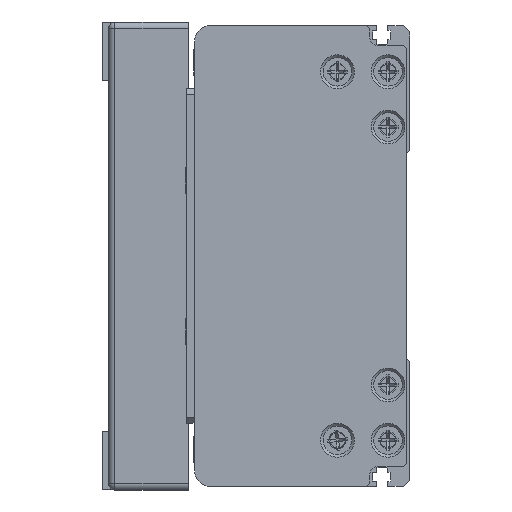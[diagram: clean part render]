
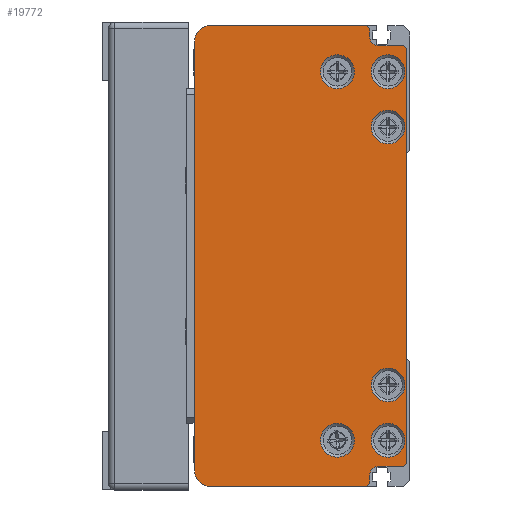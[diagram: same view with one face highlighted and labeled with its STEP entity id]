
A CAD part, left-side view. The second image highlights one B-rep face of the part: STEP entity #19772.
In plain terms, the highlighted planar face has unit normal (-1, 0, 0) as drawn and (0, 0, -1) by its records, which use the part's own axes.
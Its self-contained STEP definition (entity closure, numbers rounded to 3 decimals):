
#934=LINE('',#28562,#2599);
#935=LINE('',#28566,#2600);
#936=LINE('',#28568,#2601);
#937=LINE('',#28570,#2602);
#938=LINE('',#28574,#2603);
#939=LINE('',#28576,#2604);
#940=LINE('',#28578,#2605);
#941=LINE('',#28580,#2606);
#942=LINE('',#28582,#2607);
#943=LINE('',#28586,#2608);
#944=LINE('',#28588,#2609);
#945=LINE('',#28590,#2610);
#2599=VECTOR('',#23187,140.);
#2600=VECTOR('',#23190,51.);
#2601=VECTOR('',#23191,1.414);
#2602=VECTOR('',#23192,2.5);
#2603=VECTOR('',#23195,8.);
#2604=VECTOR('',#23196,1.414);
#2605=VECTOR('',#23197,135.);
#2606=VECTOR('',#23198,1.414);
#2607=VECTOR('',#23199,8.);
#2608=VECTOR('',#23202,2.5);
#2609=VECTOR('',#23203,1.414);
#2610=VECTOR('',#23204,51.);
#4217=PLANE('',#21122);
#4842=FACE_BOUND('',#6656,.T.);
#4843=FACE_BOUND('',#6657,.T.);
#4844=FACE_BOUND('',#6658,.T.);
#4845=FACE_BOUND('',#6659,.T.);
#4846=FACE_BOUND('',#6660,.T.);
#4847=FACE_BOUND('',#6661,.T.);
#5385=FACE_OUTER_BOUND('',#6655,.T.);
#6655=EDGE_LOOP('',(#13875,#13876,#13877,#13878,#13879,#13880,#13881,#13882,
#13883,#13884,#13885,#13886,#13887,#13888,#13889,#13890));
#6656=EDGE_LOOP('',(#13891));
#6657=EDGE_LOOP('',(#13892));
#6658=EDGE_LOOP('',(#13893));
#6659=EDGE_LOOP('',(#13894));
#6660=EDGE_LOOP('',(#13895));
#6661=EDGE_LOOP('',(#13896));
#8155=CIRCLE('',#21123,5.);
#8156=CIRCLE('',#21124,3.);
#8157=CIRCLE('',#21125,3.);
#8158=CIRCLE('',#21126,5.);
#8159=CIRCLE('',#21127,5.5);
#8160=CIRCLE('',#21128,5.5);
#8161=CIRCLE('',#21129,5.5);
#8162=CIRCLE('',#21130,5.5);
#8163=CIRCLE('',#21131,5.5);
#8164=CIRCLE('',#21132,5.5);
#8839=VERTEX_POINT('',#28560);
#8840=VERTEX_POINT('',#28561);
#8841=VERTEX_POINT('',#28563);
#8842=VERTEX_POINT('',#28565);
#8843=VERTEX_POINT('',#28567);
#8844=VERTEX_POINT('',#28569);
#8845=VERTEX_POINT('',#28571);
#8846=VERTEX_POINT('',#28573);
#8847=VERTEX_POINT('',#28575);
#8848=VERTEX_POINT('',#28577);
#8849=VERTEX_POINT('',#28579);
#8850=VERTEX_POINT('',#28581);
#8851=VERTEX_POINT('',#28583);
#8852=VERTEX_POINT('',#28585);
#8853=VERTEX_POINT('',#28587);
#8854=VERTEX_POINT('',#28589);
#8855=VERTEX_POINT('',#28592);
#8856=VERTEX_POINT('',#28594);
#8857=VERTEX_POINT('',#28596);
#8858=VERTEX_POINT('',#28598);
#8859=VERTEX_POINT('',#28600);
#8860=VERTEX_POINT('',#28602);
#10867=EDGE_CURVE('',#8839,#8840,#934,.T.);
#10868=EDGE_CURVE('',#8840,#8841,#8155,.T.);
#10869=EDGE_CURVE('',#8841,#8842,#935,.T.);
#10870=EDGE_CURVE('',#8842,#8843,#936,.T.);
#10871=EDGE_CURVE('',#8843,#8844,#937,.T.);
#10872=EDGE_CURVE('',#8844,#8845,#8156,.T.);
#10873=EDGE_CURVE('',#8845,#8846,#938,.T.);
#10874=EDGE_CURVE('',#8846,#8847,#939,.T.);
#10875=EDGE_CURVE('',#8847,#8848,#940,.T.);
#10876=EDGE_CURVE('',#8848,#8849,#941,.T.);
#10877=EDGE_CURVE('',#8849,#8850,#942,.T.);
#10878=EDGE_CURVE('',#8850,#8851,#8157,.T.);
#10879=EDGE_CURVE('',#8851,#8852,#943,.T.);
#10880=EDGE_CURVE('',#8852,#8853,#944,.T.);
#10881=EDGE_CURVE('',#8853,#8854,#945,.T.);
#10882=EDGE_CURVE('',#8854,#8839,#8158,.T.);
#10883=EDGE_CURVE('',#8855,#8855,#8159,.T.);
#10884=EDGE_CURVE('',#8856,#8856,#8160,.T.);
#10885=EDGE_CURVE('',#8857,#8857,#8161,.T.);
#10886=EDGE_CURVE('',#8858,#8858,#8162,.T.);
#10887=EDGE_CURVE('',#8859,#8859,#8163,.T.);
#10888=EDGE_CURVE('',#8860,#8860,#8164,.T.);
#13875=ORIENTED_EDGE('',*,*,#10867,.T.);
#13876=ORIENTED_EDGE('',*,*,#10868,.T.);
#13877=ORIENTED_EDGE('',*,*,#10869,.T.);
#13878=ORIENTED_EDGE('',*,*,#10870,.T.);
#13879=ORIENTED_EDGE('',*,*,#10871,.T.);
#13880=ORIENTED_EDGE('',*,*,#10872,.T.);
#13881=ORIENTED_EDGE('',*,*,#10873,.T.);
#13882=ORIENTED_EDGE('',*,*,#10874,.T.);
#13883=ORIENTED_EDGE('',*,*,#10875,.T.);
#13884=ORIENTED_EDGE('',*,*,#10876,.T.);
#13885=ORIENTED_EDGE('',*,*,#10877,.T.);
#13886=ORIENTED_EDGE('',*,*,#10878,.T.);
#13887=ORIENTED_EDGE('',*,*,#10879,.T.);
#13888=ORIENTED_EDGE('',*,*,#10880,.T.);
#13889=ORIENTED_EDGE('',*,*,#10881,.T.);
#13890=ORIENTED_EDGE('',*,*,#10882,.T.);
#13891=ORIENTED_EDGE('',*,*,#10883,.T.);
#13892=ORIENTED_EDGE('',*,*,#10884,.T.);
#13893=ORIENTED_EDGE('',*,*,#10885,.T.);
#13894=ORIENTED_EDGE('',*,*,#10886,.T.);
#13895=ORIENTED_EDGE('',*,*,#10887,.T.);
#13896=ORIENTED_EDGE('',*,*,#10888,.T.);
#19772=ADVANCED_FACE('',(#5385,#4842,#4843,#4844,#4845,#4846,#4847),#4217,
 .F.);
#21122=AXIS2_PLACEMENT_3D('',#28559,#23185,#23186);
#21123=AXIS2_PLACEMENT_3D('',#28564,#23188,#23189);
#21124=AXIS2_PLACEMENT_3D('',#28572,#23193,#23194);
#21125=AXIS2_PLACEMENT_3D('',#28584,#23200,#23201);
#21126=AXIS2_PLACEMENT_3D('',#28591,#23205,#23206);
#21127=AXIS2_PLACEMENT_3D('',#28593,#23207,#23208);
#21128=AXIS2_PLACEMENT_3D('',#28595,#23209,#23210);
#21129=AXIS2_PLACEMENT_3D('',#28597,#23211,#23212);
#21130=AXIS2_PLACEMENT_3D('',#28599,#23213,#23214);
#21131=AXIS2_PLACEMENT_3D('',#28601,#23215,#23216);
#21132=AXIS2_PLACEMENT_3D('',#28603,#23217,#23218);
#23185=DIRECTION('center_axis',(0.,0.,
1.));
#23186=DIRECTION('ref_axis',(1.,0.,0.));
#23187=DIRECTION('',(1.,0.,0.));
#23188=DIRECTION('center_axis',(0.,0.,
-1.));
#23189=DIRECTION('ref_axis',(-1.,0.,0.));
#23190=DIRECTION('',(0.,-1.,0.));
#23191=DIRECTION('',(-0.707,-0.707,0.));
#23192=DIRECTION('',(-1.,0.,0.));
#23193=DIRECTION('center_axis',(0.,0.,
1.));
#23194=DIRECTION('ref_axis',(0.,1.,0.));
#23195=DIRECTION('',(0.,-1.,0.));
#23196=DIRECTION('',(-0.707,-0.707,0.));
#23197=DIRECTION('',(-1.,0.,0.));
#23198=DIRECTION('',(-0.707,0.707,0.));
#23199=DIRECTION('',(0.,1.,0.));
#23200=DIRECTION('center_axis',(0.,0.,
1.));
#23201=DIRECTION('ref_axis',(1.,0.,0.));
#23202=DIRECTION('',(-1.,0.,0.));
#23203=DIRECTION('',(-0.707,0.707,0.));
#23204=DIRECTION('',(0.,1.,0.));
#23205=DIRECTION('center_axis',(0.,0.,
-1.));
#23206=DIRECTION('ref_axis',(0.,-1.,0.));
#23207=DIRECTION('center_axis',(0.,0.,
1.));
#23208=DIRECTION('ref_axis',(-1.,0.,0.));
#23209=DIRECTION('center_axis',(0.,0.,
1.));
#23210=DIRECTION('ref_axis',(-1.,0.,0.));
#23211=DIRECTION('center_axis',(0.,0.,
1.));
#23212=DIRECTION('ref_axis',(-1.,0.,0.));
#23213=DIRECTION('center_axis',(0.,0.,
1.));
#23214=DIRECTION('ref_axis',(-1.,0.,0.));
#23215=DIRECTION('center_axis',(0.,0.,
1.));
#23216=DIRECTION('ref_axis',(-1.,0.,0.));
#23217=DIRECTION('center_axis',(0.,0.,
1.));
#23218=DIRECTION('ref_axis',(-1.,0.,0.));
#28559=CARTESIAN_POINT('Origin',(0.25,38.047,-819.));
#28560=CARTESIAN_POINT('',(-69.75,72.25,-819.));
#28561=CARTESIAN_POINT('',(70.25,72.25,-819.));
#28562=CARTESIAN_POINT('',(-69.75,72.25,-819.));
#28563=CARTESIAN_POINT('',(75.25,67.25,-819.));
#28564=CARTESIAN_POINT('Origin',(70.25,67.25,-819.));
#28565=CARTESIAN_POINT('',(75.25,16.25,-819.));
#28566=CARTESIAN_POINT('',(75.25,67.25,-819.));
#28567=CARTESIAN_POINT('',(74.25,15.25,-819.));
#28568=CARTESIAN_POINT('',(75.25,16.25,-819.));
#28569=CARTESIAN_POINT('',(71.75,15.25,-819.));
#28570=CARTESIAN_POINT('',(74.25,15.25,-819.));
#28571=CARTESIAN_POINT('',(68.75,12.25,-819.));
#28572=CARTESIAN_POINT('Origin',(71.75,12.25,-819.));
#28573=CARTESIAN_POINT('',(68.75,4.25,-819.));
#28574=CARTESIAN_POINT('',(68.75,12.25,-819.));
#28575=CARTESIAN_POINT('',(67.75,3.25,-819.));
#28576=CARTESIAN_POINT('',(68.75,4.25,-819.));
#28577=CARTESIAN_POINT('',(-67.25,3.25,-819.));
#28578=CARTESIAN_POINT('',(67.75,3.25,-819.));
#28579=CARTESIAN_POINT('',(-68.25,4.25,-819.));
#28580=CARTESIAN_POINT('',(-67.25,3.25,-819.));
#28581=CARTESIAN_POINT('',(-68.25,12.25,-819.));
#28582=CARTESIAN_POINT('',(-68.25,4.25,-819.));
#28583=CARTESIAN_POINT('',(-71.25,15.25,-819.));
#28584=CARTESIAN_POINT('Origin',(-71.25,12.25,-819.));
#28585=CARTESIAN_POINT('',(-73.75,15.25,-819.));
#28586=CARTESIAN_POINT('',(-71.25,15.25,-819.));
#28587=CARTESIAN_POINT('',(-74.75,16.25,-819.));
#28588=CARTESIAN_POINT('',(-73.75,15.25,-819.));
#28589=CARTESIAN_POINT('',(-74.75,67.25,-819.));
#28590=CARTESIAN_POINT('',(-74.75,16.25,-819.));
#28591=CARTESIAN_POINT('Origin',(-69.75,67.25,-819.));
#28592=CARTESIAN_POINT('',(-47.25,9.25,-819.));
#28593=CARTESIAN_POINT('Origin',(-41.75,9.25,-819.));
#28594=CARTESIAN_POINT('',(36.75,9.25,-819.));
#28595=CARTESIAN_POINT('Origin',(42.25,9.25,-819.));
#28596=CARTESIAN_POINT('',(-65.25,25.75,-819.));
#28597=CARTESIAN_POINT('Origin',(-59.75,25.75,-819.));
#28598=CARTESIAN_POINT('',(54.75,25.75,-819.));
#28599=CARTESIAN_POINT('Origin',(60.25,25.75,-819.));
#28600=CARTESIAN_POINT('',(-65.25,9.25,-819.));
#28601=CARTESIAN_POINT('Origin',(-59.75,9.25,-819.));
#28602=CARTESIAN_POINT('',(54.75,9.25,-819.));
#28603=CARTESIAN_POINT('Origin',(60.25,9.25,-819.));
